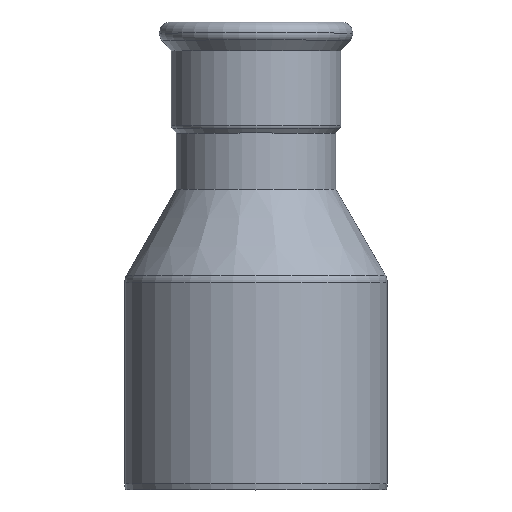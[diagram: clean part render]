
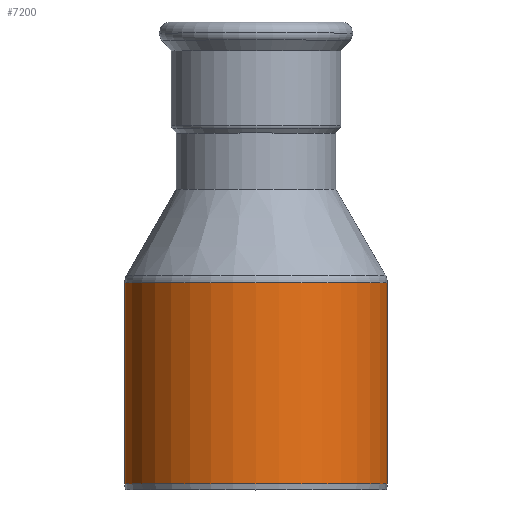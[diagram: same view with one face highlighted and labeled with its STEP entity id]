
A CAD part, top view. The second image highlights one B-rep face of the part: STEP entity #7200.
In plain terms, the highlighted cylindrical face has radius 44.45 mm (diameter 88.9 mm), a partial arc.
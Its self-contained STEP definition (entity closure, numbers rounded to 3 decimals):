
#1960=CARTESIAN_POINT('',(-202.976,33.421,0.));
#1970=DIRECTION('',(0.,-1.,0.));
#1980=DIRECTION('',(1.,0.,0.));
#1990=AXIS2_PLACEMENT_3D('',#1960,#1970,#1980);
#2000=CYLINDRICAL_SURFACE('',#1990,44.45);
#2010=CARTESIAN_POINT('',(-247.426,33.421,
0.));
#2020=DIRECTION('',(0.,-1.,0.));
#2030=VECTOR('',#2020,1.);
#2040=LINE('',#2010,#2030);
#2050=CARTESIAN_POINT('',(-247.426,-17.436,0.));
#2060=VERTEX_POINT('',#2050);
#2070=CARTESIAN_POINT('',(-247.426,-85.379,
0.));
#2080=VERTEX_POINT('',#2070);
#2090=EDGE_CURVE('',#2060,#2080,#2040,.T.);
#2110=CARTESIAN_POINT('',(-202.976,-85.379,0.));
#2120=DIRECTION('',(0.,-1.,0.));
#2130=DIRECTION('',(-1.,0.,0.));
#2140=AXIS2_PLACEMENT_3D('',#2110,#2120,#2130);
#2150=CIRCLE('',#2140,44.45);
#2160=CARTESIAN_POINT('',(-158.526,-85.379,0.));
#2170=VERTEX_POINT('',#2160);
#2200=CARTESIAN_POINT('',(-158.526,33.421,0.));
#2210=DIRECTION('',(0.,-1.,0.));
#2220=VECTOR('',#2210,1.);
#2230=LINE('',#2200,#2220);
#2240=CARTESIAN_POINT('',(-158.526,-17.436,0.));
#2250=VERTEX_POINT('',#2240);
#2260=EDGE_CURVE('',#2250,#2170,#2230,.T.);
#2280=CARTESIAN_POINT('',(-202.976,-17.436,0.));
#2290=DIRECTION('',(0.,-1.,0.));
#2300=DIRECTION('',(-1.,0.,0.));
#2310=AXIS2_PLACEMENT_3D('',#2280,#2290,#2300);
#2320=CIRCLE('',#2310,44.45);
#6750=EDGE_CURVE('',#2170,#2080,#2150,.T.);
#7130=ORIENTED_EDGE('',*,*,#6750,.F.);
#7140=ORIENTED_EDGE('',*,*,#2090,.T.);
#7150=EDGE_CURVE('',#2250,#2060,#2320,.T.);
#7160=ORIENTED_EDGE('',*,*,#7150,.T.);
#7170=ORIENTED_EDGE('',*,*,#2260,.F.);
#7180=EDGE_LOOP('',(#7170,#7160,#7140,#7130));
#7190=FACE_OUTER_BOUND('',#7180,.T.);
#7200=ADVANCED_FACE('',(#7190),#2000,.T.);
